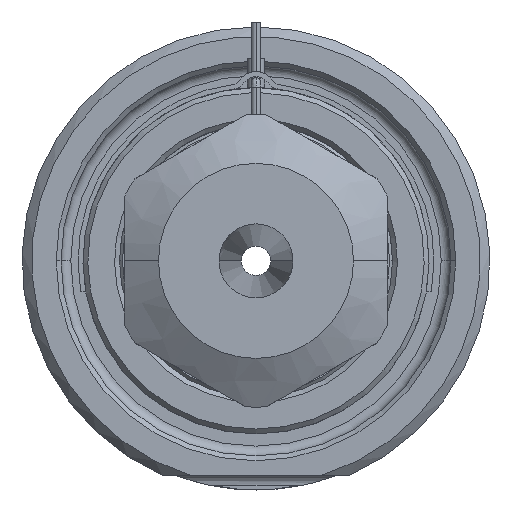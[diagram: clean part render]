
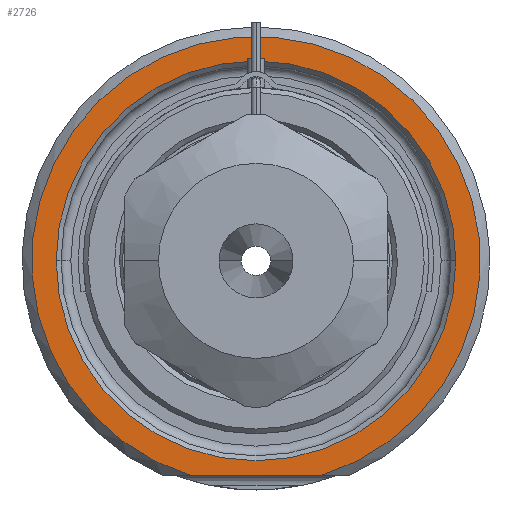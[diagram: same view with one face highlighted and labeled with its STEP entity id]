
A CAD part, front view. The second image highlights one B-rep face of the part: STEP entity #2726.
In plain terms, the highlighted planar face has unit normal (0, -1, 0).
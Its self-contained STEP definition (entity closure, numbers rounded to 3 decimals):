
#1=DIRECTION('',(1.,0.,0.));
#2=VECTOR('',#1,13.416);
#3=CARTESIAN_POINT('',(-6.708,0.,-22.));
#4=LINE('',#3,#2);
#5=CARTESIAN_POINT('',(0.,0.,0.));
#6=DIRECTION('',(0.,1.,0.));
#7=DIRECTION('',(-1.,0.,0.));
#8=AXIS2_PLACEMENT_3D('',#5,#6,#7);
#10=CARTESIAN_POINT('',(0.,0.,0.));
#11=DIRECTION('',(0.,1.,0.));
#12=DIRECTION('',(1.,0.,0.));
#13=AXIS2_PLACEMENT_3D('',#10,#11,#12);
#121=CARTESIAN_POINT('',(0.,0.,0.));
#122=DIRECTION('',(0.,-1.,0.));
#123=DIRECTION('',(0.292,0.,-0.957));
#124=AXIS2_PLACEMENT_3D('',#121,#122,#123);
#2266=CARTESIAN_POINT('',(-20.5,0.,0.));
#2267=CARTESIAN_POINT('',(20.5,0.,0.));
#2268=VERTEX_POINT('',#2266);
#2269=VERTEX_POINT('',#2267);
#2306=CARTESIAN_POINT('',(-6.708,0.,-22.));
#2307=CARTESIAN_POINT('',(6.708,0.,-22.));
#2308=VERTEX_POINT('',#2306);
#2309=VERTEX_POINT('',#2307);
#2709=CARTESIAN_POINT('',(0.,0.,0.));
#2710=DIRECTION('',(0.,-1.,0.));
#2711=DIRECTION('',(1.,0.,0.));
#2712=AXIS2_PLACEMENT_3D('',#2709,#2710,#2711);
#2713=PLANE('',#2712);
#2715=ORIENTED_EDGE('',*,*,#2714,.F.);
#2717=ORIENTED_EDGE('',*,*,#2716,.F.);
#2718=EDGE_LOOP('',(#2715,#2717));
#2719=FACE_OUTER_BOUND('',#2718,.F.);
#2721=ORIENTED_EDGE('',*,*,#2720,.F.);
#2723=ORIENTED_EDGE('',*,*,#2722,.F.);
#2724=EDGE_LOOP('',(#2721,#2723));
#2725=FACE_BOUND('',#2724,.F.);
#2726=ADVANCED_FACE('',(#2719,#2725),#2713,.T.);
#9=CIRCLE('',#8,20.5);
#14=CIRCLE('',#13,20.5);
#125=CIRCLE('',#124,23.);
#2714=EDGE_CURVE('',#2308,#2309,#4,.T.);
#2716=EDGE_CURVE('',#2309,#2308,#125,.T.);
#2720=EDGE_CURVE('',#2268,#2269,#9,.T.);
#2722=EDGE_CURVE('',#2269,#2268,#14,.T.);
